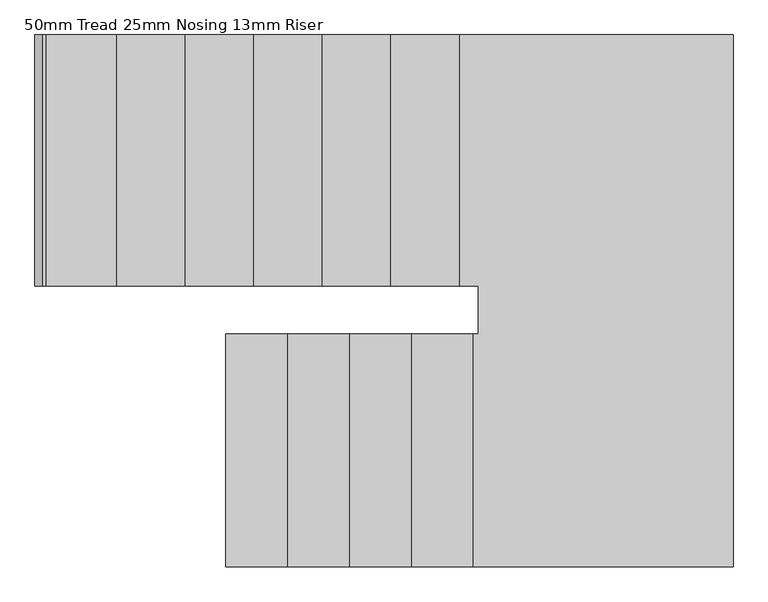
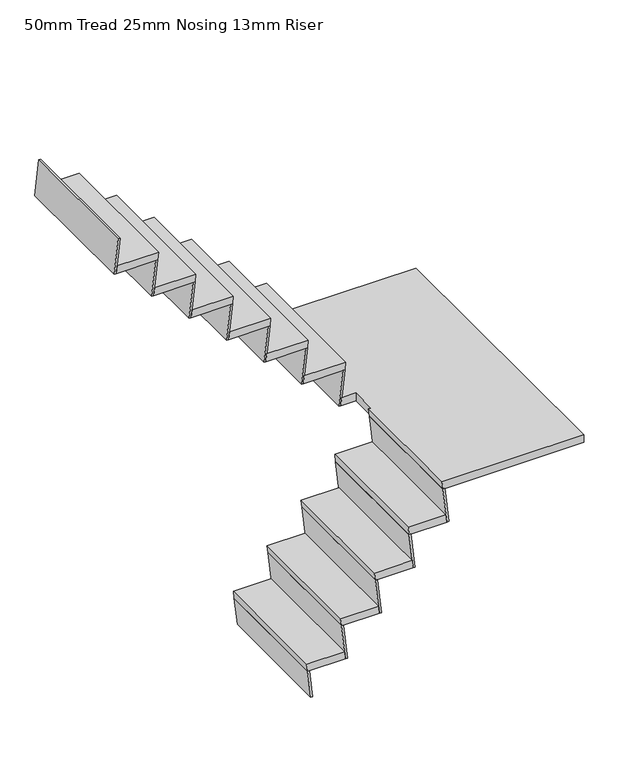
"""IFC4 building model written with IfcOpenShell, lengths in millimetres: stair flight geometry, 50mm Tread 25mm Nosing 13mm Riser."""

from ifc_helpers import new_model, si_unit, origin, place, context, project, spatial, faceted_brep, source, transform, mapped, element, save


def stair_flight_50mm_tread_25mm_nosing_13mm_riser_0b85ac9d(model_context):
    return source(origin(), model_context, "Body", "Brep", [
        faceted_brep([(271.2629942, 776.1, 3124.2), (276.7310607, 776.1, 3074.2), (276.7310607, 1576.2, 3074.2), (271.2629942, 1576.2, 3124.2), (33.4081105, 1576.2, 3124.2), (33.4081105, 776.1, 3124.2), (38.876177, 776.1, 3074.2), (38.876177, 1576.2, 3074.2)], [[[0, 1, 2, 3]], [[3, 4, 5, 0]], [[2, 1, 6, 7]], [[4, 3, 2, 7]], [[0, 5, 6, 1]], [[5, 4, 7, 6]]]),
        faceted_brep([(38.876177, 776.1, 3074.2), (58.4081105, 776.1, 2895.6), (70.9826377, 776.1, 2895.6), (51.4507042, 776.1, 3074.2), (38.876177, 1576.2, 3074.2), (51.4507042, 1576.2, 3074.2), (70.9826377, 1576.2, 2895.6), (58.4081105, 1576.2, 2895.6)], [[[0, 1, 2, 3]], [[4, 5, 6, 7]], [[1, 0, 4, 7]], [[2, 1, 7, 6]], [[3, 2, 6, 5]], [[0, 3, 5, 4]]]),
        faceted_brep([(251.7310607, 776.1, 3302.8), (276.7310607, 776.1, 3074.2), (289.3055879, 776.1, 3074.2), (264.3055879, 776.1, 3302.8), (251.7310607, 1576.2, 3302.8), (264.3055879, 1576.2, 3302.8), (289.3055879, 1576.2, 3074.2), (276.7310607, 1576.2, 3074.2)], [[[0, 1, 2, 3]], [[4, 5, 6, 7]], [[1, 0, 4, 7]], [[2, 1, 7, 6]], [[3, 2, 6, 5]], [[0, 3, 5, 4]]]),
        faceted_brep([(484.1178779, 1576.2, 3352.8), (246.2629942, 1576.2, 3352.8), (246.2629942, 776.1, 3352.8), (484.1178779, 776.1, 3352.8), (489.5859444, 1576.2, 3302.8), (489.5859444, 776.1, 3302.8), (251.7310607, 776.1, 3302.8), (251.7310607, 1576.2, 3302.8)], [[[0, 1, 2, 3]], [[4, 5, 6, 7]], [[1, 0, 4, 7]], [[3, 2, 6, 5]], [[3, 5, 4, 0]], [[2, 1, 7, 6]]]),
        faceted_brep([(464.5859444, 776.1, 3531.4), (489.5859444, 776.1, 3302.8), (502.1604716, 776.1, 3302.8), (477.1604716, 776.1, 3531.4), (464.5859444, 1576.2, 3531.4), (477.1604716, 1576.2, 3531.4), (502.1604716, 1576.2, 3302.8), (489.5859444, 1576.2, 3302.8)], [[[0, 1, 2, 3]], [[4, 5, 6, 7]], [[1, 0, 4, 7]], [[2, 1, 7, 6]], [[3, 2, 6, 5]], [[0, 3, 5, 4]]]),
        faceted_brep([(696.9727616, 1576.2, 3581.4), (459.1178779, 1576.2, 3581.4), (459.1178779, 776.1, 3581.4), (696.9727616, 776.1, 3581.4), (702.4408281, 1576.2, 3531.4), (702.4408281, 776.1, 3531.4), (464.5859444, 776.1, 3531.4), (464.5859444, 1576.2, 3531.4)], [[[0, 1, 2, 3]], [[4, 5, 6, 7]], [[1, 0, 4, 7]], [[3, 2, 6, 5]], [[3, 5, 4, 0]], [[2, 1, 7, 6]]]),
        faceted_brep([(890.2957118, 776.1, 3988.6), (915.2957118, 776.1, 3760.0), (927.870239, 776.1, 3760.0), (902.870239, 776.1, 3988.6), (890.2957118, 1576.2, 3988.6), (902.870239, 1576.2, 3988.6), (927.870239, 1576.2, 3760.0), (915.2957118, 1576.2, 3760.0)], [[[0, 1, 2, 3]], [[4, 5, 6, 7]], [[1, 0, 4, 7]], [[2, 1, 7, 6]], [[3, 2, 6, 5]], [[0, 3, 5, 4]]]),
        faceted_brep([(810.4226601, 1741.3, 4038.6), (900.5, 1741.3, 4038.6), (900.5, 1576.2, 4038.6), (884.8276453, 1576.2, 4038.6), (884.8276453, 776.1, 4038.6), (1776.8, 776.1, 4038.6), (1776.8, 2604.9, 4038.6), (810.4226601, 2604.9, 4038.6), (900.5, 1576.2, 3988.6), (900.5, 1741.3, 3988.6), (804.9545936, 1741.3, 3988.6), (804.9545936, 2604.9, 3988.6), (1776.8, 2604.9, 3988.6), (1776.8, 776.1, 3988.6), (890.2957118, 776.1, 3988.6), (890.2957118, 1576.2, 3988.6)], [[[0, 1, 2, 3, 4, 5, 6, 7]], [[8, 9, 10, 11, 12, 13, 14, 15]], [[1, 0, 10, 9]], [[5, 4, 14, 13]], [[7, 11, 10, 0]], [[4, 3, 15, 14]], [[2, 1, 9, 8]], [[3, 2, 8, 15]], [[6, 5, 13, 12]], [[7, 6, 12, 11]]]),
        faceted_brep([(677.4408281, 776.1, 3760.0), (702.4408281, 776.1, 3531.4), (715.0153553, 776.1, 3531.4), (690.0153553, 776.1, 3760.0), (677.4408281, 1576.2, 3760.0), (690.0153553, 1576.2, 3760.0), (715.0153553, 1576.2, 3531.4), (702.4408281, 1576.2, 3531.4)], [[[0, 1, 2, 3]], [[4, 5, 6, 7]], [[1, 0, 4, 7]], [[2, 1, 7, 6]], [[3, 2, 6, 5]], [[0, 3, 5, 4]]]),
        faceted_brep([(909.8276453, 1576.2, 3810.0), (671.9727616, 1576.2, 3810.0), (671.9727616, 776.1, 3810.0), (909.8276453, 776.1, 3810.0), (915.2957118, 1576.2, 3760.0), (915.2957118, 776.1, 3760.0), (677.4408281, 776.1, 3760.0), (677.4408281, 1576.2, 3760.0)], [[[0, 1, 2, 3]], [[4, 5, 6, 7]], [[1, 0, 4, 7]], [[3, 2, 6, 5]], [[3, 5, 4, 0]], [[2, 1, 7, 6]]]),
        faceted_brep([(829.9545936, 2604.9, 4217.2), (804.9545936, 2604.9, 3988.6), (792.3800664, 2604.9, 3988.6), (817.3800664, 2604.9, 4217.2), (829.9545936, 1741.3, 4217.2), (817.3800664, 1741.3, 4217.2), (792.3800664, 1741.3, 3988.6), (804.9545936, 1741.3, 3988.6)], [[[0, 1, 2, 3]], [[4, 5, 6, 7]], [[1, 0, 4, 7]], [[2, 1, 7, 6]], [[3, 2, 6, 5]], [[0, 3, 5, 4]]]),
        faceted_brep([(574.7174877, 1741.3, 4267.2), (835.4226601, 1741.3, 4267.2), (835.4226601, 2604.9, 4267.2), (574.7174877, 2604.9, 4267.2), (569.2494212, 1741.3, 4217.2), (569.2494212, 2604.9, 4217.2), (829.9545936, 2604.9, 4217.2), (829.9545936, 1741.3, 4217.2)], [[[0, 1, 2, 3]], [[4, 5, 6, 7]], [[1, 0, 4, 7]], [[3, 2, 6, 5]], [[3, 5, 4, 0]], [[2, 1, 7, 6]]]),
        faceted_brep([(594.2494212, 2604.9, 4445.8), (569.2494212, 2604.9, 4217.2), (556.674894, 2604.9, 4217.2), (581.674894, 2604.9, 4445.8), (594.2494212, 1741.3, 4445.8), (581.674894, 1741.3, 4445.8), (556.674894, 1741.3, 4217.2), (569.2494212, 1741.3, 4217.2)], [[[0, 1, 2, 3]], [[4, 5, 6, 7]], [[1, 0, 4, 7]], [[2, 1, 7, 6]], [[3, 2, 6, 5]], [[0, 3, 5, 4]]]),
        faceted_brep([(339.0123153, 1741.3, 4495.8), (599.7174877, 1741.3, 4495.8), (599.7174877, 2604.9, 4495.8), (339.0123153, 2604.9, 4495.8), (333.5442488, 1741.3, 4445.8), (333.5442488, 2604.9, 4445.8), (594.2494212, 2604.9, 4445.8), (594.2494212, 1741.3, 4445.8)], [[[0, 1, 2, 3]], [[4, 5, 6, 7]], [[1, 0, 4, 7]], [[3, 2, 6, 5]], [[3, 5, 4, 0]], [[2, 1, 7, 6]]]),
        faceted_brep([(358.5442488, 2604.9, 4674.4), (333.5442488, 2604.9, 4445.8), (320.9697216, 2604.9, 4445.8), (345.9697216, 2604.9, 4674.4), (358.5442488, 1741.3, 4674.4), (345.9697216, 1741.3, 4674.4), (320.9697216, 1741.3, 4445.8), (333.5442488, 1741.3, 4445.8)], [[[0, 1, 2, 3]], [[4, 5, 6, 7]], [[1, 0, 4, 7]], [[2, 1, 7, 6]], [[3, 2, 6, 5]], [[0, 3, 5, 4]]]),
        faceted_brep([(103.3071429, 1741.3, 4724.4), (364.0123153, 1741.3, 4724.4), (364.0123153, 2604.9, 4724.4), (103.3071429, 2604.9, 4724.4), (97.8390764, 1741.3, 4674.4), (97.8390764, 2604.9, 4674.4), (358.5442488, 2604.9, 4674.4), (358.5442488, 1741.3, 4674.4)], [[[0, 1, 2, 3]], [[4, 5, 6, 7]], [[1, 0, 4, 7]], [[3, 2, 6, 5]], [[3, 5, 4, 0]], [[2, 1, 7, 6]]]),
        faceted_brep([(122.8390764, 2604.9, 4903.0), (97.8390764, 2604.9, 4674.4), (85.2645492, 2604.9, 4674.4), (110.2645492, 2604.9, 4903.0), (122.8390764, 1741.3, 4903.0), (110.2645492, 1741.3, 4903.0), (85.2645492, 1741.3, 4674.4), (97.8390764, 1741.3, 4674.4)], [[[0, 1, 2, 3]], [[4, 5, 6, 7]], [[1, 0, 4, 7]], [[2, 1, 7, 6]], [[3, 2, 6, 5]], [[0, 3, 5, 4]]]),
        faceted_brep([(-132.3980296, 1741.3, 4953.0), (128.3071429, 1741.3, 4953.0), (128.3071429, 2604.9, 4953.0), (-132.3980296, 2604.9, 4953.0), (-137.866096, 1741.3, 4903.0), (-137.866096, 2604.9, 4903.0), (122.8390764, 2604.9, 4903.0), (122.8390764, 1741.3, 4903.0)], [[[0, 1, 2, 3]], [[4, 5, 6, 7]], [[1, 0, 4, 7]], [[3, 2, 6, 5]], [[3, 5, 4, 0]], [[2, 1, 7, 6]]]),
        faceted_brep([(-112.866096, 2604.9, 5131.6), (-137.866096, 2604.9, 4903.0), (-150.4406233, 2604.9, 4903.0), (-125.4406233, 2604.9, 5131.6), (-112.866096, 1741.3, 5131.6), (-125.4406233, 1741.3, 5131.6), (-150.4406233, 1741.3, 4903.0), (-137.866096, 1741.3, 4903.0)], [[[0, 1, 2, 3]], [[4, 5, 6, 7]], [[1, 0, 4, 7]], [[2, 1, 7, 6]], [[3, 2, 6, 5]], [[0, 3, 5, 4]]]),
        faceted_brep([(-368.103202, 1741.3, 5181.6), (-107.3980296, 1741.3, 5181.6), (-107.3980296, 2604.9, 5181.6), (-368.103202, 2604.9, 5181.6), (-373.5712685, 1741.3, 5131.6), (-373.5712685, 2604.9, 5131.6), (-112.866096, 2604.9, 5131.6), (-112.866096, 1741.3, 5131.6)], [[[0, 1, 2, 3]], [[4, 5, 6, 7]], [[1, 0, 4, 7]], [[3, 2, 6, 5]], [[3, 5, 4, 0]], [[2, 1, 7, 6]]]),
        faceted_brep([(-348.5712685, 2604.9, 5360.2), (-373.5712685, 2604.9, 5131.6), (-386.1457957, 2604.9, 5131.6), (-361.1457957, 2604.9, 5360.2), (-348.5712685, 1741.3, 5360.2), (-361.1457957, 1741.3, 5360.2), (-386.1457957, 1741.3, 5131.6), (-373.5712685, 1741.3, 5131.6)], [[[0, 1, 2, 3]], [[4, 5, 6, 7]], [[1, 0, 4, 7]], [[2, 1, 7, 6]], [[3, 2, 6, 5]], [[0, 3, 5, 4]]]),
        faceted_brep([(-584.2764409, 2604.9, 5588.8), (-609.2764409, 2604.9, 5360.2), (-621.8509681, 2604.9, 5360.2), (-596.8509681, 2604.9, 5588.8), (-584.2764409, 1741.3, 5588.8), (-596.8509681, 1741.3, 5588.8), (-621.8509681, 1741.3, 5360.2), (-609.2764409, 1741.3, 5360.2)], [[[0, 1, 2, 3]], [[4, 5, 6, 7]], [[1, 0, 4, 7]], [[2, 1, 7, 6]], [[3, 2, 6, 5]], [[0, 3, 5, 4]]]),
        faceted_brep([(-603.8083744, 1741.3, 5410.2), (-343.103202, 1741.3, 5410.2), (-343.103202, 2604.9, 5410.2), (-603.8083744, 2604.9, 5410.2), (-609.2764409, 1741.3, 5360.2), (-609.2764409, 2604.9, 5360.2), (-348.5712685, 2604.9, 5360.2), (-348.5712685, 1741.3, 5360.2)], [[[0, 1, 2, 3]], [[4, 5, 6, 7]], [[1, 0, 4, 7]], [[3, 2, 6, 5]], [[3, 5, 4, 0]], [[2, 1, 7, 6]]]),
    ])


if __name__ == "__main__":
    model = new_model("IFC4")
    model_context = context("Model", 3, world=origin())
    ifc_project = project(units=[si_unit("LENGTHUNIT", "METRE", prefix="MILLI")], contexts=[model_context])
    site = spatial("IfcSite", under=ifc_project)
    building = spatial("IfcBuilding", under=site)
    placement = place(None, origin())
    stair_flight_50mm_tread_25mm_nosing_13mm_riser_shape = stair_flight_50mm_tread_25mm_nosing_13mm_riser_0b85ac9d(model_context)
    element("IfcStairFlight", 1, ObjectType="50mm Tread 25mm Nosing 13mm Riser", at=placement, inside=building, context=model_context, shape_type="MappedRepresentation", body=[
        mapped(stair_flight_50mm_tread_25mm_nosing_13mm_riser_shape, transform((0.0, 0.0, 0.0), x_axis=(1.0, 0.0, 0.0), y_axis=(0.0, 1.0, 0.0), z_axis=(0.0, 0.0, 1.0))),
    ])
    save(model, "model.ifc")
